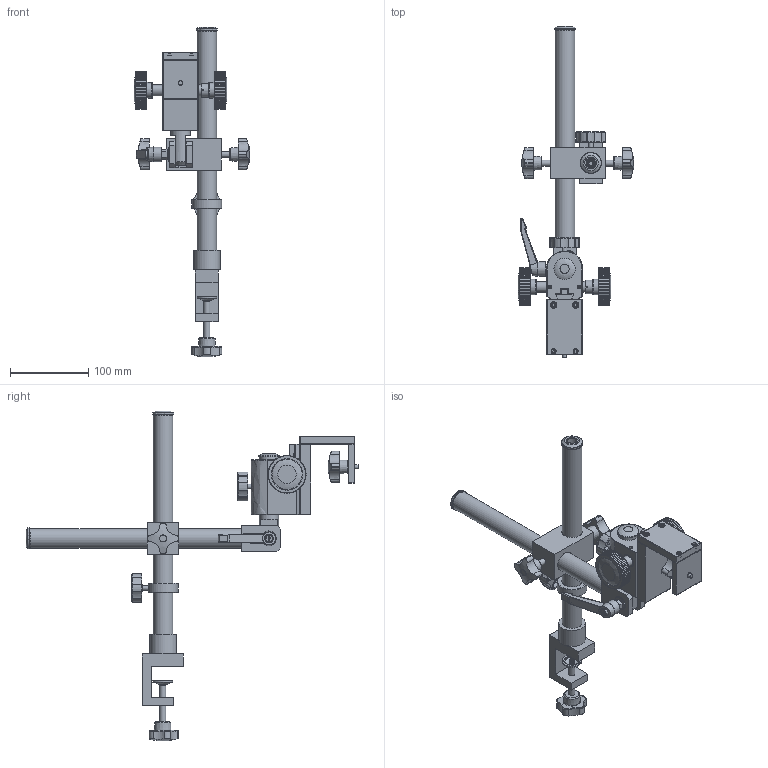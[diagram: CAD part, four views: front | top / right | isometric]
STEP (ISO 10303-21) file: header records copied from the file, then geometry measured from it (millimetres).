
FILE_DESCRIPTION(('STEP AP214'),'1');
FILE_NAME('GR-STD9.stp','2024-09-20T04:48:35',(' '),(' '),'Spatial InterOp 3D',' ',' ');
FILE_SCHEMA(('AUTOMOTIVE_DESIGN { 1 0 10303 214 1 1 1 1 }'));
Length unit declared in the file: metre
Products named in the file (6): GR-STD9; Component1; Component2; Component3; Component4; Component5
Assembly tree (5 placements, depth 2):
  GR-STD9
    Component1
    Component2
    Component3
    Component4
    Component5
Bounding box: 147.11 x 423.48 x 420.9 mm (x, y, z)
Volume: 736675.1 mm3; surface area: 258854.9 mm2
Topology: 12 solids, 17 shells, 2796 faces, 6686 edges, 3945 vertices
Faces by surface type: plane 1810, cylinder 695, bspline 156, torus 72, cone 53, sphere 10
Full cylindrical faces by diameter (mm): 1.5 x4, 3.9 x2, 4 x6, 4.25 x1, 5 x3, 5.1 x2, 5.5 x1, 5.6 x2, 5.8 x1, 6 x2, 6.4 x2, 6.5 x1, 6.9 x3, 7 x3, 7.3 x1, 8 x6, 8.3 x1, 8.5 x2, 9.3 x1, 9.8 x2, 9.9 x2, 10 x5, 11 x1, 11.7 x4, 12.1 x1, 12.4 x1, 12.9 x1, 13.1 x1, 13.9 x1, 14 x2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
Entity records: 183871 total; most frequent: CARTESIAN_POINT 66263, DIRECTION 13189, ORIENTED_EDGE 12762, STYLED_ITEM 9189, PRESENTATION_STYLE_ASSIGNMENT 9189, COLOUR_RGB 9189, EDGE_CURVE 6381, CURVE_STYLE 6381
